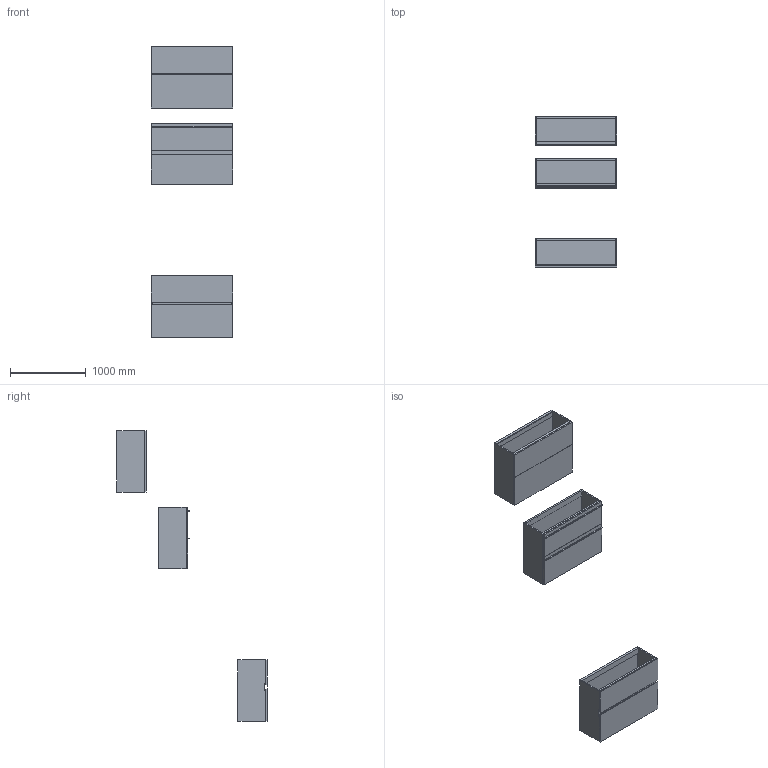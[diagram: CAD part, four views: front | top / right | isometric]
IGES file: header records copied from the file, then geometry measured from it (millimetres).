
Start section: Data from Parasolid IGES Translator 19.0.9, Copyright(c) 2006 Siemens PL M Software. All Rights Reserved.
Global section: file name: noorth-SI-H 81,2 D 38,8 W 108_8670.igs; native system: By Siemens PLM Incorporated; preprocessor: XPlus GENERIC/IGES 19.0.9; author: Noname; organization: Noname; date: 20200601.122840; units: metre
Bounding box: 1080 x 1986 x 3842 mm (x, y, z)
Volume: 112380101 mm3; surface area: 18010155.1 mm2
Topology: 27 solids, 27 shells, 266 faces, 580 edges, 348 vertices
Faces by surface type: plane 182, extrusion 36, bspline 32, cylinder 16
